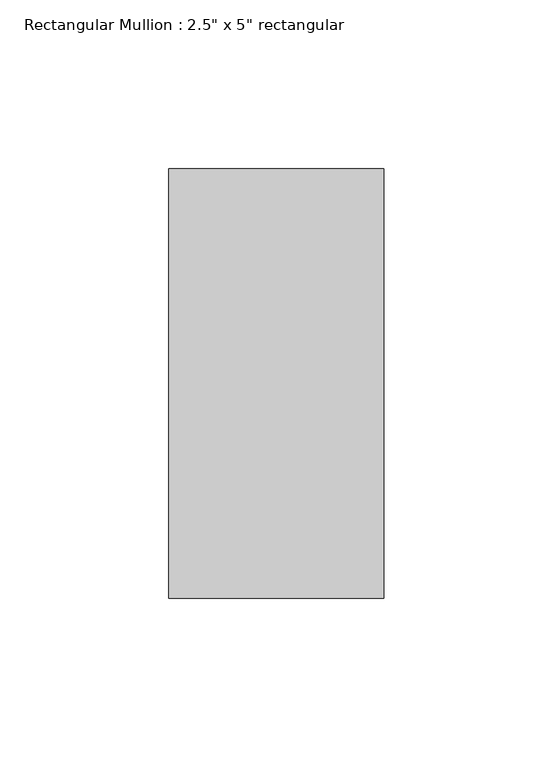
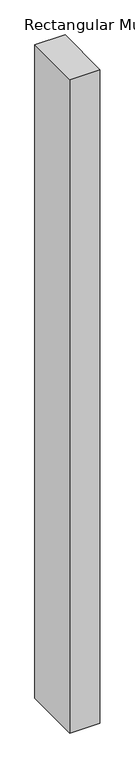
"""IFC4 building model written with IfcOpenShell, lengths in millimetres: member geometry."""

from ifc_helpers import new_model, si_unit, frame, origin, place, context, project, spatial, polyline, outline, extrude, source, transform, mapped, element, save


def member_a139046c(model_context):
    return source(origin(), model_context, "Body", "SweptSolid", [
        extrude(outline(polyline([(0.0, 63.5), (0.0, -63.5), (-63.5, -63.5), (-63.5, 63.5), (0.0, 63.5)])), frame((0.0, 0.0, -1454.15), z_axis=(0.0, 0.0, 1.0), x_axis=(1.0, 0.0, 0.0)), (0.0, 0.0, 1.0), 1454.15),
    ])


if __name__ == "__main__":
    model = new_model("IFC4")
    model_context = context("Model", 3, world=origin())
    ifc_project = project(units=[si_unit("LENGTHUNIT", "METRE", prefix="MILLI")], contexts=[model_context])
    site = spatial("IfcSite", under=ifc_project)
    building = spatial("IfcBuilding", under=site)
    placement = place(None, origin())
    member_shape = member_a139046c(model_context)
    element("IfcMember", 1, ObjectType="Rectangular Mullion : 2.5\" x 5\" rectangular", at=placement, inside=building, context=model_context, shape_type="MappedRepresentation", body=[
        mapped(member_shape, transform((0.0, 0.0, 0.0), x_axis=(1.0, 0.0, 0.0), y_axis=(0.0, 1.0, 0.0), z_axis=(0.0, 0.0, 1.0))),
    ])
    save(model, "model.ifc")
